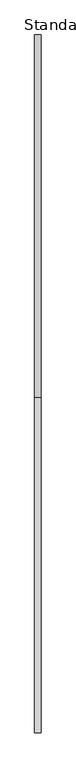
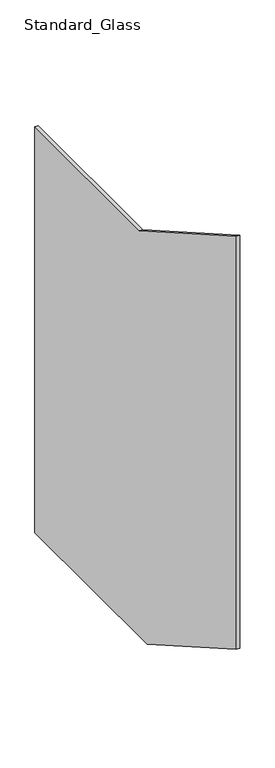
"""IFC4 building model written with IfcOpenShell, lengths in millimetres: railing geometry, Baluster-Landing-Panel-VIVA-VISIO-Upper : Standard_Glass."""

from ifc_helpers import new_model, si_unit, frame, origin, place, context, project, spatial, polyline, outline, extrude, source, transform, mapped, element, save


def standard_glass_2ae5cd5a(model_context):
    return source(origin(), model_context, "Body", "SweptSolid", [
        extrude(outline(polyline([(492.404401, 1086.485), (1023.6500129, 1086.485), (1023.6500129, -173.0597708), (454.0743984, -173.0597708), (0.0, 86.36), (0.0, 1367.8032978), (492.404401, 1086.485)])), frame((31.6077292, 0.0, 0.0), z_axis=(1.0, 0.0, 0.0), x_axis=(0.0, 1.0, 0.0)), (0.0, 0.0, 1.0), 9.525),
    ])


if __name__ == "__main__":
    model = new_model("IFC4")
    model_context = context("Model", 3, world=origin())
    ifc_project = project(units=[si_unit("LENGTHUNIT", "METRE", prefix="MILLI")], contexts=[model_context])
    site = spatial("IfcSite", under=ifc_project)
    building = spatial("IfcBuilding", under=site)
    placement = place(None, origin())
    standard_glass_shape = standard_glass_2ae5cd5a(model_context)
    element("IfcRailing", 1, ObjectType="Baluster-Landing-Panel-VIVA-VISIO-Upper : Standard_Glass", at=placement, inside=building, context=model_context, shape_type="MappedRepresentation", body=[
        mapped(standard_glass_shape, transform((0.0, 0.0, 0.0), x_axis=(1.0, 0.0, 0.0), y_axis=(0.0, 1.0, 0.0), z_axis=(0.0, 0.0, 1.0))),
    ])
    save(model, "model.ifc")
